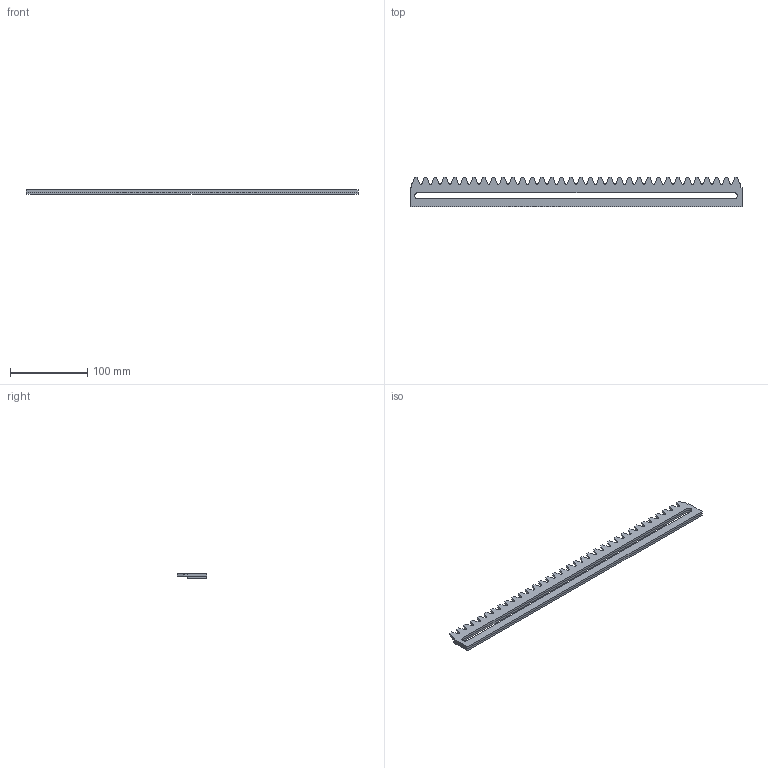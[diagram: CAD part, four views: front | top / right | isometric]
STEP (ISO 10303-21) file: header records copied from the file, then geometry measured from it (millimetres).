
FILE_DESCRIPTION (( 'STEP AP203' ), '1' );
FILE_NAME ('Crémaillère avec support.STEP', '2025-09-19T13:25:21', ( '' ), ( '' ), 'SwSTEP 2.0', 'SolidWorks 2019', '' );
FILE_SCHEMA (( 'CONFIG_CONTROL_DESIGN' ));
Length unit declared in the file: millimetre
Products named in the file (3): Support Cr幦aill鋨e; Cr幦aill鋨e m=4 - 34 dents; Cr幦aill鋨e avec support
Assembly tree (2 placements, depth 2):
  Cr幦aill鋨e avec support
    Cr幦aill鋨e m=4 - 34 dents
    Support Cr幦aill鋨e
Bounding box: 430 x 38.42 x 6 mm (x, y, z)
Volume: 56328 mm3; surface area: 49339.5 mm2
Topology: 2 solids, 2 shells, 230 faces, 678 edges, 452 vertices
Faces by surface type: plane 156, cylinder 74
Entity records: 7963 total; most frequent: CARTESIAN_POINT 1365, ORIENTED_EDGE 1356, DIRECTION 1296, EDGE_CURVE 678, LINE 530, VECTOR 530, VERTEX_POINT 452, AXIS2_PLACEMENT_3D 383
